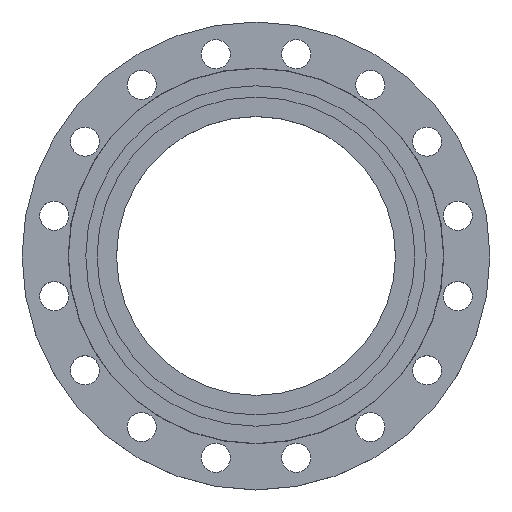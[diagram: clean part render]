
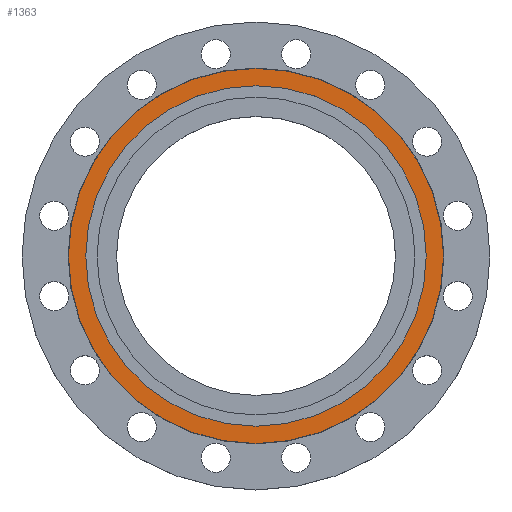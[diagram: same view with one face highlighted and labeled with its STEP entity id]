
A CAD part, top view. The second image highlights one B-rep face of the part: STEP entity #1363.
In plain terms, the highlighted planar face has unit normal (0, 0, 1).
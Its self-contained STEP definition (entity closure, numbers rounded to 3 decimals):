
#108 = CARTESIAN_POINT ( 'NONE',  ( 211., 0., 0. ) ) ;
#113 = DIRECTION ( 'NONE',  ( -1., 0., 0. ) ) ;
#117 = DIRECTION ( 'NONE',  ( 0., 0., -1. ) ) ;
#120 = CARTESIAN_POINT ( 'NONE',  ( 0., 0., 0. ) ) ;
#154 = CIRCLE ( 'NONE', #185, 232.5 ) ;
#185 = AXIS2_PLACEMENT_3D ( 'NONE', #1736, #1735, #1733 ) ;
#237 = DIRECTION ( 'NONE',  ( 1., 0., 0. ) ) ;
#249 = DIRECTION ( 'NONE',  ( 0., 0., 1. ) ) ;
#250 = CARTESIAN_POINT ( 'NONE',  ( 0., 0., 0. ) ) ;
#254 = PLANE ( 'NONE',  #358 ) ;
#258 = FACE_BOUND ( 'NONE', #380, .T. ) ;
#274 = FACE_OUTER_BOUND ( 'NONE', #483, .T. ) ;
#358 = AXIS2_PLACEMENT_3D ( 'NONE', #250, #249, #237 ) ;
#380 = EDGE_LOOP ( 'NONE', ( #1059, #1060 ) ) ;
#403 = VERTEX_POINT ( 'NONE', #108 ) ;
#476 = DIRECTION ( 'NONE',  ( -1., 0., 0. ) ) ;
#479 = DIRECTION ( 'NONE',  ( 0., 0., -1. ) ) ;
#483 = EDGE_LOOP ( 'NONE', ( #1056, #1058 ) ) ;
#487 = CARTESIAN_POINT ( 'NONE',  ( 0., 0., 0. ) ) ;
#627 = EDGE_CURVE ( 'NONE', #1169, #403, #777, .T. ) ;
#647 = EDGE_CURVE ( 'NONE', #885, #1176, #154, .T. ) ;
#685 = CARTESIAN_POINT ( 'NONE',  ( 232.5, 0., 0. ) ) ;
#688 = CARTESIAN_POINT ( 'NONE',  ( -211., 0., 0. ) ) ;
#777 = CIRCLE ( 'NONE', #1360, 211. ) ;
#885 = VERTEX_POINT ( 'NONE', #1505 ) ;
#1054 = AXIS2_PLACEMENT_3D ( 'NONE', #120, #117, #113 ) ;
#1056 = ORIENTED_EDGE ( 'NONE', *, *, #647, .F. ) ;
#1058 = ORIENTED_EDGE ( 'NONE', *, *, #1419, .F. ) ;
#1059 = ORIENTED_EDGE ( 'NONE', *, *, #627, .T. ) ;
#1060 = ORIENTED_EDGE ( 'NONE', *, *, #1220, .T. ) ;
#1067 = CIRCLE ( 'NONE', #1054, 232.5 ) ;
#1169 = VERTEX_POINT ( 'NONE', #688 ) ;
#1176 = VERTEX_POINT ( 'NONE', #685 ) ;
#1220 = EDGE_CURVE ( 'NONE', #403, #1169, #1287, .T. ) ;
#1279 = AXIS2_PLACEMENT_3D ( 'NONE', #487, #479, #476 ) ;
#1287 = CIRCLE ( 'NONE', #1279, 211. ) ;
#1360 = AXIS2_PLACEMENT_3D ( 'NONE', #1750, #1749, #1748 ) ;
#1363 = ADVANCED_FACE ( 'NONE', ( #274, #258 ), #254, .T. ) ;
#1419 = EDGE_CURVE ( 'NONE', #1176, #885, #1067, .T. ) ;
#1505 = CARTESIAN_POINT ( 'NONE',  ( -232.5, 0., 0. ) ) ;
#1733 = DIRECTION ( 'NONE',  ( -1., 0., 0. ) ) ;
#1735 = DIRECTION ( 'NONE',  ( 0., 0., -1. ) ) ;
#1736 = CARTESIAN_POINT ( 'NONE',  ( 0., 0., 0. ) ) ;
#1748 = DIRECTION ( 'NONE',  ( -1., 0., 0. ) ) ;
#1749 = DIRECTION ( 'NONE',  ( 0., 0., -1. ) ) ;
#1750 = CARTESIAN_POINT ( 'NONE',  ( 0., 0., 0. ) ) ;
